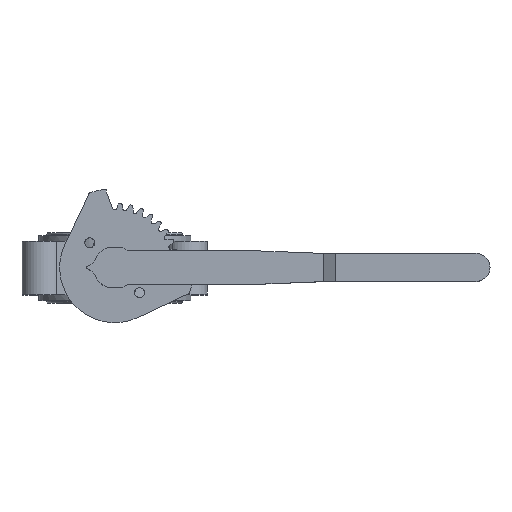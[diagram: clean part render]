
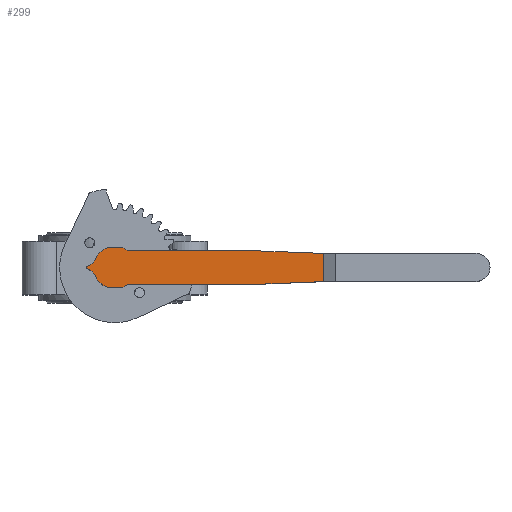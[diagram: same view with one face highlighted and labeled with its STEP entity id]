
A CAD part, top view. The second image highlights one B-rep face of the part: STEP entity #299.
In plain terms, the highlighted planar face has unit normal (0, 0, 1) as drawn and (0, 0, -1) by its records, which use the part's own axes.
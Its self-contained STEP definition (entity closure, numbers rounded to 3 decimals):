
#115 = ORIENTED_EDGE ( 'NONE', *, *, #4216, .T. ) ;
#139 = VECTOR ( 'NONE', #3228, 1000. ) ;
#248 = DIRECTION ( 'NONE',  ( 0., 0., 1. ) ) ;
#299 = ADVANCED_FACE ( 'NONE', ( #3937 ), #8860, .T. ) ;
#329 = CARTESIAN_POINT ( 'NONE',  ( 0., 0., 5. ) ) ;
#336 = ORIENTED_EDGE ( 'NONE', *, *, #5072, .T. ) ;
#362 = CIRCLE ( 'NONE', #3424, 8. ) ;
#380 = VERTEX_POINT ( 'NONE', #4628 ) ;
#620 = EDGE_LOOP ( 'NONE', ( #3090, #2390, #4815, #7624, #2325, #7683, #1511, #8086, #7429, #115, #1315, #2674, #3334, #2102, #3798, #336 ) ) ;
#666 = AXIS2_PLACEMENT_3D ( 'NONE', #735, #6556, #4462 ) ;
#735 = CARTESIAN_POINT ( 'NONE',  ( 0., 0., 5. ) ) ;
#781 = AXIS2_PLACEMENT_3D ( 'NONE', #4618, #248, #7511 ) ;
#792 = CARTESIAN_POINT ( 'NONE',  ( 5.385, 14., 5. ) ) ;
#861 = VERTEX_POINT ( 'NONE', #4369 ) ;
#928 = CARTESIAN_POINT ( 'NONE',  ( 0., 14., 5. ) ) ;
#943 = VECTOR ( 'NONE', #3166, 1000. ) ;
#976 = AXIS2_PLACEMENT_3D ( 'NONE', #3070, #5920, #3140 ) ;
#1051 = DIRECTION ( 'NONE',  ( 0., 0., -1. ) ) ;
#1104 = VERTEX_POINT ( 'NONE', #2459 ) ;
#1105 = CARTESIAN_POINT ( 'NONE',  ( 0.636, -15.895, 5. ) ) ;
#1113 = CARTESIAN_POINT ( 'NONE',  ( -21.208, -8.901, 5. ) ) ;
#1261 = VERTEX_POINT ( 'NONE', #5488 ) ;
#1264 = LINE ( 'NONE', #4736, #139 ) ;
#1315 = ORIENTED_EDGE ( 'NONE', *, *, #5878, .T. ) ;
#1401 = CARTESIAN_POINT ( 'NONE',  ( 0., 0., 5. ) ) ;
#1484 = EDGE_CURVE ( 'NONE', #5401, #3950, #3531, .T. ) ;
#1511 = ORIENTED_EDGE ( 'NONE', *, *, #5259, .T. ) ;
#1514 = EDGE_CURVE ( 'NONE', #9047, #4324, #3436, .T. ) ;
#1684 = EDGE_CURVE ( 'NONE', #7924, #4614, #5194, .T. ) ;
#1722 = VERTEX_POINT ( 'NONE', #6523 ) ;
#1827 = CARTESIAN_POINT ( 'NONE',  ( -5.385, -14., 5. ) ) ;
#1900 = DIRECTION ( 'NONE',  ( -1., 0., 0. ) ) ;
#1903 = CARTESIAN_POINT ( 'NONE',  ( -19.423, 0.906, 5. ) ) ;
#2102 = ORIENTED_EDGE ( 'NONE', *, *, #3128, .F. ) ;
#2198 = LINE ( 'NONE', #7781, #7064 ) ;
#2325 = ORIENTED_EDGE ( 'NONE', *, *, #7706, .T. ) ;
#2390 = ORIENTED_EDGE ( 'NONE', *, *, #6287, .T. ) ;
#2424 = VECTOR ( 'NONE', #1900, 1000. ) ;
#2459 = CARTESIAN_POINT ( 'NONE',  ( 5.385, -14., 5. ) ) ;
#2563 = CARTESIAN_POINT ( 'NONE',  ( 0., 12., 5. ) ) ;
#2674 = ORIENTED_EDGE ( 'NONE', *, *, #4622, .F. ) ;
#3070 = CARTESIAN_POINT ( 'NONE',  ( -19., 0., 5. ) ) ;
#3090 = ORIENTED_EDGE ( 'NONE', *, *, #1484, .T. ) ;
#3113 = CIRCLE ( 'NONE', #8459, 15. ) ;
#3123 = EDGE_CURVE ( 'NONE', #1722, #1104, #3113, .T. ) ;
#3128 = EDGE_CURVE ( 'NONE', #4324, #4614, #9278, .T. ) ;
#3140 = DIRECTION ( 'NONE',  ( -1., 0., 0. ) ) ;
#3166 = DIRECTION ( 'NONE',  ( -1., 0., 0. ) ) ;
#3195 = DIRECTION ( 'NONE',  ( -1., 0., 0. ) ) ;
#3228 = DIRECTION ( 'NONE',  ( -0.906, -0.423, 0. ) ) ;
#3334 = ORIENTED_EDGE ( 'NONE', *, *, #1684, .T. ) ;
#3340 = CARTESIAN_POINT ( 'NONE',  ( 0.636, 15.895, 5. ) ) ;
#3350 = CARTESIAN_POINT ( 'NONE',  ( 0., 0., 5. ) ) ;
#3424 = AXIS2_PLACEMENT_3D ( 'NONE', #1113, #6869, #6241 ) ;
#3436 = LINE ( 'NONE', #3340, #5372 ) ;
#3531 = LINE ( 'NONE', #1105, #6142 ) ;
#3532 = CARTESIAN_POINT ( 'NONE',  ( 98., -12., 5. ) ) ;
#3541 = VERTEX_POINT ( 'NONE', #8146 ) ;
#3542 = EDGE_CURVE ( 'NONE', #6862, #380, #5147, .T. ) ;
#3615 = VERTEX_POINT ( 'NONE', #1827 ) ;
#3794 = DIRECTION ( 'NONE',  ( -1., 0., 0. ) ) ;
#3798 = ORIENTED_EDGE ( 'NONE', *, *, #1514, .F. ) ;
#3937 = FACE_OUTER_BOUND ( 'NONE', #620, .T. ) ;
#3950 = VERTEX_POINT ( 'NONE', #3532 ) ;
#3952 = CARTESIAN_POINT ( 'NONE',  ( -17.827, 1.65, 5. ) ) ;
#4175 = DIRECTION ( 'NONE',  ( 0., 0., -1. ) ) ;
#4216 = EDGE_CURVE ( 'NONE', #5901, #1261, #6947, .T. ) ;
#4291 = CARTESIAN_POINT ( 'NONE',  ( 148., -10., 5. ) ) ;
#4324 = VERTEX_POINT ( 'NONE', #8725 ) ;
#4369 = CARTESIAN_POINT ( 'NONE',  ( -13.831, -5.805, 5. ) ) ;
#4453 = CIRCLE ( 'NONE', #7594, 15. ) ;
#4462 = DIRECTION ( 'NONE',  ( -1., 0., 0. ) ) ;
#4614 = VERTEX_POINT ( 'NONE', #7436 ) ;
#4618 = CARTESIAN_POINT ( 'NONE',  ( -21.208, 8.901, 5. ) ) ;
#4622 = EDGE_CURVE ( 'NONE', #7924, #7187, #7045, .T. ) ;
#4628 = CARTESIAN_POINT ( 'NONE',  ( -19.423, -0.906, 5. ) ) ;
#4736 = CARTESIAN_POINT ( 'NONE',  ( -3.816, 8.184, 5. ) ) ;
#4773 = LINE ( 'NONE', #6111, #943 ) ;
#4815 = ORIENTED_EDGE ( 'NONE', *, *, #3123, .T. ) ;
#4826 = AXIS2_PLACEMENT_3D ( 'NONE', #1401, #7872, #6330 ) ;
#5072 = EDGE_CURVE ( 'NONE', #9047, #5401, #6993, .T. ) ;
#5147 = CIRCLE ( 'NONE', #976, 1. ) ;
#5194 = CIRCLE ( 'NONE', #666, 15. ) ;
#5259 = EDGE_CURVE ( 'NONE', #3541, #380, #9167, .T. ) ;
#5372 = VECTOR ( 'NONE', #9164, 1000. ) ;
#5401 = VERTEX_POINT ( 'NONE', #4291 ) ;
#5483 = AXIS2_PLACEMENT_3D ( 'NONE', #329, #1051, #3195 ) ;
#5488 = CARTESIAN_POINT ( 'NONE',  ( -13.831, 5.805, 5. ) ) ;
#5857 = EDGE_CURVE ( 'NONE', #1104, #3615, #2198, .T. ) ;
#5878 = EDGE_CURVE ( 'NONE', #1261, #7187, #4453, .T. ) ;
#5901 = VERTEX_POINT ( 'NONE', #3952 ) ;
#5920 = DIRECTION ( 'NONE',  ( 0., 0., 1. ) ) ;
#6111 = CARTESIAN_POINT ( 'NONE',  ( 0., -12., 5. ) ) ;
#6142 = VECTOR ( 'NONE', #6971, 1000. ) ;
#6226 = CIRCLE ( 'NONE', #4826, 15. ) ;
#6237 = CARTESIAN_POINT ( 'NONE',  ( 148., 10., 5. ) ) ;
#6238 = DIRECTION ( 'NONE',  ( 0., 0., -1. ) ) ;
#6241 = DIRECTION ( 'NONE',  ( -1., 0., 0. ) ) ;
#6287 = EDGE_CURVE ( 'NONE', #3950, #1722, #4773, .T. ) ;
#6330 = DIRECTION ( 'NONE',  ( -1., 0., 0. ) ) ;
#6376 = EDGE_CURVE ( 'NONE', #5901, #6862, #1264, .T. ) ;
#6523 = CARTESIAN_POINT ( 'NONE',  ( 9., -12., 5. ) ) ;
#6556 = DIRECTION ( 'NONE',  ( 0., 0., -1. ) ) ;
#6807 = EDGE_CURVE ( 'NONE', #3541, #861, #362, .T. ) ;
#6810 = CARTESIAN_POINT ( 'NONE',  ( 148., -47.763, 5. ) ) ;
#6862 = VERTEX_POINT ( 'NONE', #1903 ) ;
#6869 = DIRECTION ( 'NONE',  ( 0., 0., -1. ) ) ;
#6926 = DIRECTION ( 'NONE',  ( 0., -1., 0. ) ) ;
#6947 = CIRCLE ( 'NONE', #781, 8. ) ;
#6971 = DIRECTION ( 'NONE',  ( -0.999, -0.04, 0. ) ) ;
#6993 = LINE ( 'NONE', #6810, #7236 ) ;
#7045 = LINE ( 'NONE', #928, #8786 ) ;
#7064 = VECTOR ( 'NONE', #7077, 1000. ) ;
#7077 = DIRECTION ( 'NONE',  ( -1., 0., 0. ) ) ;
#7173 = CARTESIAN_POINT ( 'NONE',  ( -5.385, 14., 5. ) ) ;
#7187 = VERTEX_POINT ( 'NONE', #7173 ) ;
#7236 = VECTOR ( 'NONE', #6926, 1000. ) ;
#7429 = ORIENTED_EDGE ( 'NONE', *, *, #6376, .F. ) ;
#7436 = CARTESIAN_POINT ( 'NONE',  ( 9., 12., 5. ) ) ;
#7511 = DIRECTION ( 'NONE',  ( -1., 0., 0. ) ) ;
#7594 = AXIS2_PLACEMENT_3D ( 'NONE', #8556, #4175, #9052 ) ;
#7624 = ORIENTED_EDGE ( 'NONE', *, *, #5857, .T. ) ;
#7683 = ORIENTED_EDGE ( 'NONE', *, *, #6807, .F. ) ;
#7706 = EDGE_CURVE ( 'NONE', #3615, #861, #6226, .T. ) ;
#7781 = CARTESIAN_POINT ( 'NONE',  ( 0., -14., 5. ) ) ;
#7817 = DIRECTION ( 'NONE',  ( -0.906, 0.423, 0. ) ) ;
#7872 = DIRECTION ( 'NONE',  ( 0., 0., -1. ) ) ;
#7924 = VERTEX_POINT ( 'NONE', #792 ) ;
#8086 = ORIENTED_EDGE ( 'NONE', *, *, #3542, .F. ) ;
#8146 = CARTESIAN_POINT ( 'NONE',  ( -17.827, -1.65, 5. ) ) ;
#8339 = VECTOR ( 'NONE', #7817, 1000. ) ;
#8459 = AXIS2_PLACEMENT_3D ( 'NONE', #3350, #6238, #8498 ) ;
#8498 = DIRECTION ( 'NONE',  ( -1., 0., 0. ) ) ;
#8556 = CARTESIAN_POINT ( 'NONE',  ( 0., 0., 5. ) ) ;
#8725 = CARTESIAN_POINT ( 'NONE',  ( 98., 12., 5. ) ) ;
#8786 = VECTOR ( 'NONE', #3794, 1000. ) ;
#8860 = PLANE ( 'NONE',  #5483 ) ;
#9047 = VERTEX_POINT ( 'NONE', #6237 ) ;
#9052 = DIRECTION ( 'NONE',  ( -1., 0., 0. ) ) ;
#9164 = DIRECTION ( 'NONE',  ( -0.999, 0.04, 0. ) ) ;
#9167 = LINE ( 'NONE', #9246, #8339 ) ;
#9246 = CARTESIAN_POINT ( 'NONE',  ( -3.816, -8.184, 5. ) ) ;
#9278 = LINE ( 'NONE', #2563, #2424 ) ;
